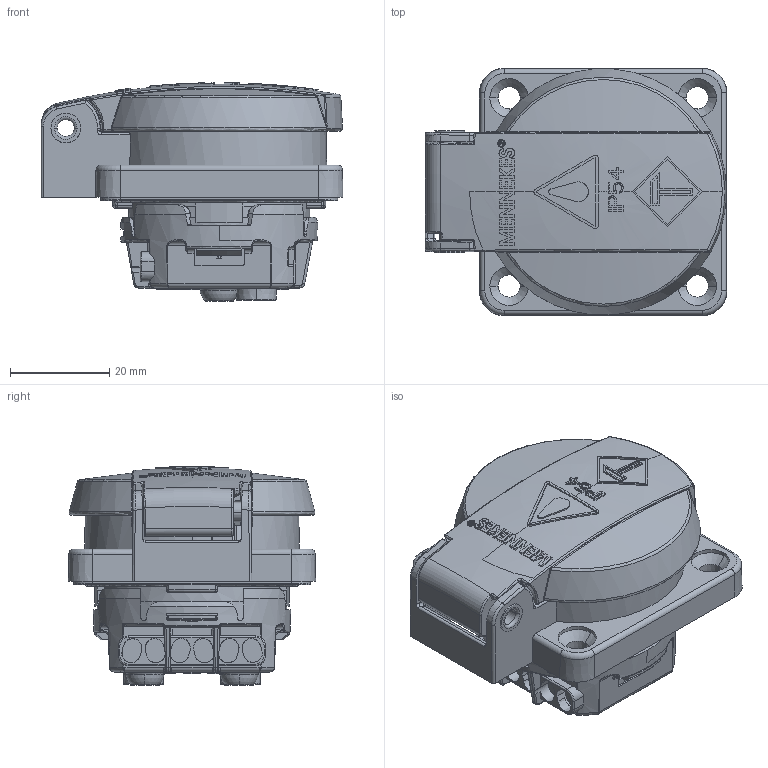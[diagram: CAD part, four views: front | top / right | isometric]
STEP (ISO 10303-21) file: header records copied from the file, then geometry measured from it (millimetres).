
FILE_DESCRIPTION((''),'2;1');
FILE_NAME('1109146_ASM_SW0002','2025-12-10T07:10:51',('kremer'),('MENNEKES'),'CREO PARAMETRIC BY PTC INC, 2024153','CREO PARAMETRIC BY PTC INC, 2024153','');
FILE_SCHEMA(('AUTOMOTIVE_DESIGN { 1 0 10303 214 1 1 1 1 }'));
Products named in the file (1): 1109146_ASM_SW0002
Bounding box: 61 x 50 x 44.2 mm (x, y, z)
Volume: 65022 mm3; surface area: 15918.5 mm2
Topology: 1 solids, 1 shells, 1624 faces, 4336 edges, 2777 vertices
Faces by surface type: plane 845, cylinder 306, bspline 161, cone 90, torus 82, extrusion 79, sphere 61
Entity records: 84387 total; most frequent: CARTESIAN_POINT 20370, ORIENTED_EDGE 8668, DIRECTION 7472, PRESENTATION_STYLE_ASSIGNMENT 6038, STYLED_ITEM 4414, CURVE_STYLE 4413, EDGE_CURVE 4334, VERTEX_POINT 2777
